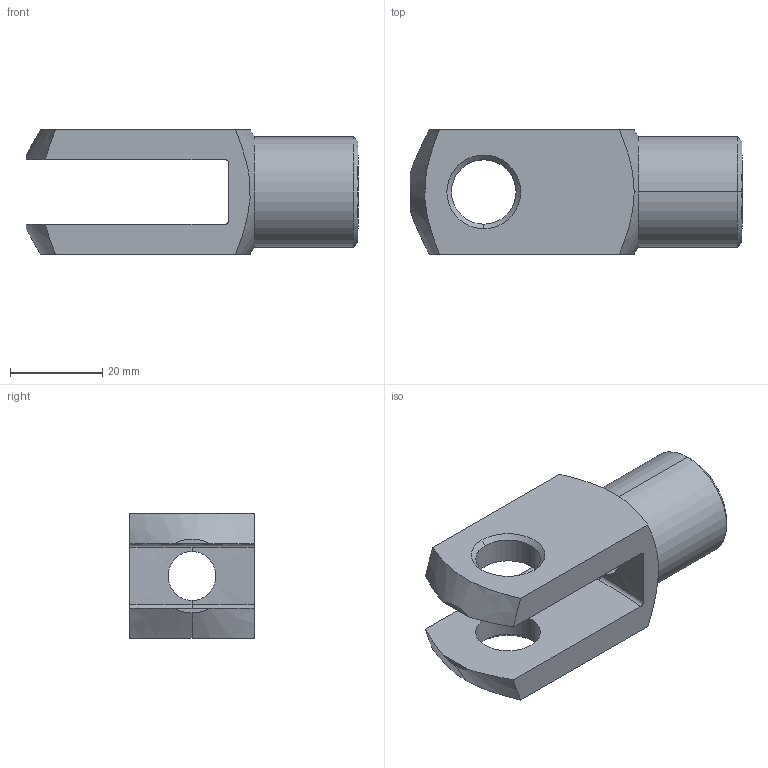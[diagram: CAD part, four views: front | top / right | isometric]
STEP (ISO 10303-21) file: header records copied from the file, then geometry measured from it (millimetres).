
FILE_DESCRIPTION (( 'STEP AP214' ), '1' );
FILE_NAME ('11.G1428FG-DIN7175.STEP', '2017-10-30T09:44:13', ( '' ), ( '' ), 'SwSTEP 2.0', 'SolidWorks 2016', '' );
FILE_SCHEMA (( 'AUTOMOTIVE_DESIGN' ));
Length unit declared in the file: millimetre
Products named in the file (1): 11.G1428FG-DIN7175
Bounding box: 72 x 27 x 27 mm (x, y, z)
Volume: 22920.6 mm3; surface area: 9756 mm2
Topology: 1 solids, 1 shells, 37 faces, 99 edges, 63 vertices
Faces by surface type: cone 15, cylinder 10, plane 9, torus 3
Entity records: 1493 total; most frequent: CARTESIAN_POINT 531, ORIENTED_EDGE 198, DIRECTION 193, EDGE_CURVE 99, AXIS2_PLACEMENT_3D 79, VERTEX_POINT 63, EDGE_LOOP 42, CIRCLE 41
